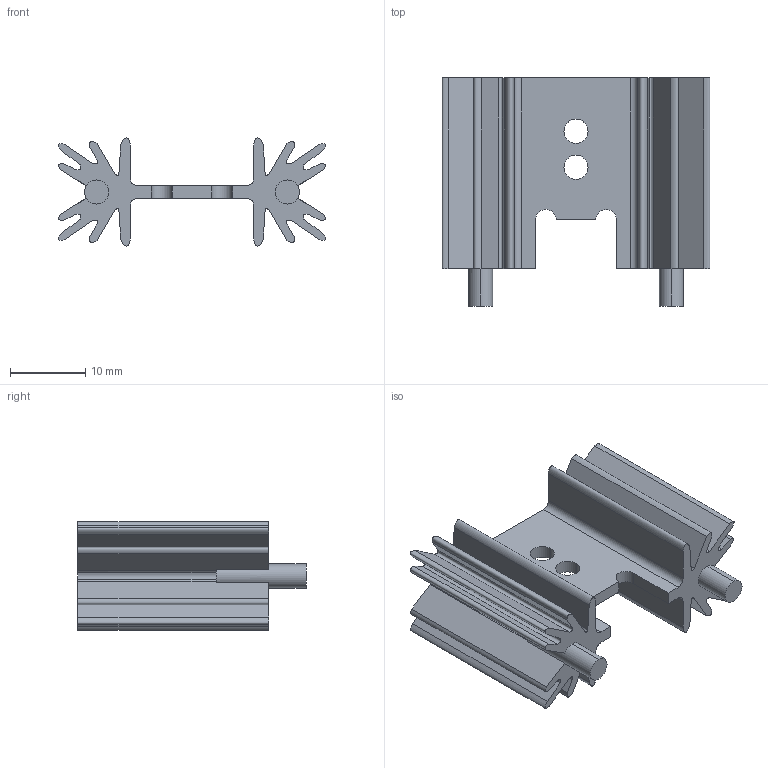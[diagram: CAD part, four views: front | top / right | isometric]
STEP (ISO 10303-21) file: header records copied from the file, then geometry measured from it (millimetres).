
FILE_DESCRIPTION (( 'STEP AP214' ), '1' );
FILE_NAME ('Sk104 25,4.STEP', '2019-05-14T11:53:33', ( '' ), ( '' ), 'SwSTEP 2.0', 'SolidWorks 2018', '' );
FILE_SCHEMA (( 'AUTOMOTIVE_DESIGN' ));
Length unit declared in the file: millimetre
Products named in the file (1): Sk104 25,4
Bounding box: 35.63 x 30.4 x 14.39 mm (x, y, z)
Volume: 4374.3 mm3; surface area: 5453.2 mm2
Topology: 1 solids, 1 shells, 96 faces, 282 edges, 188 vertices
Faces by surface type: plane 44, bspline 36, cylinder 16
Entity records: 3380 total; most frequent: CARTESIAN_POINT 907, ORIENTED_EDGE 564, DIRECTION 368, EDGE_CURVE 282, VERTEX_POINT 188, VECTOR 174, LINE 174, EDGE_LOOP 100
